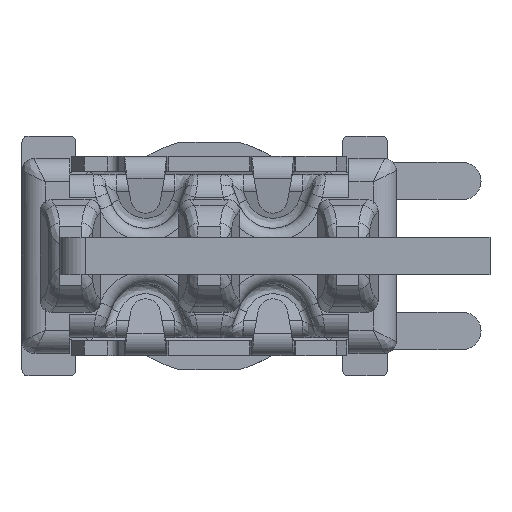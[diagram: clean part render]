
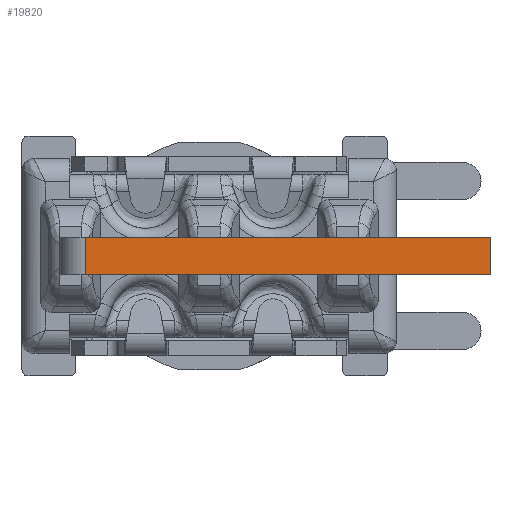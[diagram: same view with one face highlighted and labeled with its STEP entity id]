
A CAD part, front view. The second image highlights one B-rep face of the part: STEP entity #19820.
In plain terms, the highlighted planar face has unit normal (0, -1, 0).
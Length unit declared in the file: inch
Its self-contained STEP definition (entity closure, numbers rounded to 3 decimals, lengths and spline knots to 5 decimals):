
#4628=DIRECTION('',(1.,0.,0.));
#4629=VECTOR('',#4628,0.54);
#4630=CARTESIAN_POINT('',(-0.165,-0.787,-0.025));
#4631=LINE('',#4630,#4629);
#4649=DIRECTION('',(0.,0.,-1.));
#4650=VECTOR('',#4649,0.05);
#4651=CARTESIAN_POINT('',(-0.165,-0.787,0.025));
#4652=LINE('',#4651,#4650);
#4653=DIRECTION('',(1.,0.,0.));
#4654=VECTOR('',#4653,0.54);
#4655=CARTESIAN_POINT('',(-0.165,-0.787,0.025));
#4656=LINE('',#4655,#4654);
#4661=DIRECTION('',(0.,0.,-1.));
#4662=VECTOR('',#4661,0.05);
#4663=CARTESIAN_POINT('',(0.375,-0.787,0.025));
#4664=LINE('',#4663,#4662);
#12437=CARTESIAN_POINT('',(-0.165,-0.787,0.025));
#12438=CARTESIAN_POINT('',(-0.165,-0.787,-0.025));
#12439=VERTEX_POINT('',#12437);
#12440=VERTEX_POINT('',#12438);
#12441=CARTESIAN_POINT('',(0.375,-0.787,-0.025));
#12443=VERTEX_POINT('',#12441);
#12447=CARTESIAN_POINT('',(0.375,-0.787,0.025));
#12448=VERTEX_POINT('',#12447);
#19808=CARTESIAN_POINT('',(-0.165,-0.787,0.025));
#19809=DIRECTION('',(0.,-1.,0.));
#19810=DIRECTION('',(0.,0.,-1.));
#19811=AXIS2_PLACEMENT_3D('',#19808,#19809,#19810);
#19812=PLANE('',#19811);
#19813=ORIENTED_EDGE('',*,*,#19802,.F.);
#19814=ORIENTED_EDGE('',*,*,#19738,.T.);
#19816=ORIENTED_EDGE('',*,*,#19815,.T.);
#19817=ORIENTED_EDGE('',*,*,#19781,.F.);
#19818=EDGE_LOOP('',(#19813,#19814,#19816,#19817));
#19819=FACE_OUTER_BOUND('',#19818,.F.);
#19820=ADVANCED_FACE('',(#19819),#19812,.T.);
#19738=EDGE_CURVE('',#12439,#12448,#4656,.T.);
#19781=EDGE_CURVE('',#12440,#12443,#4631,.T.);
#19802=EDGE_CURVE('',#12439,#12440,#4652,.T.);
#19815=EDGE_CURVE('',#12448,#12443,#4664,.T.);
